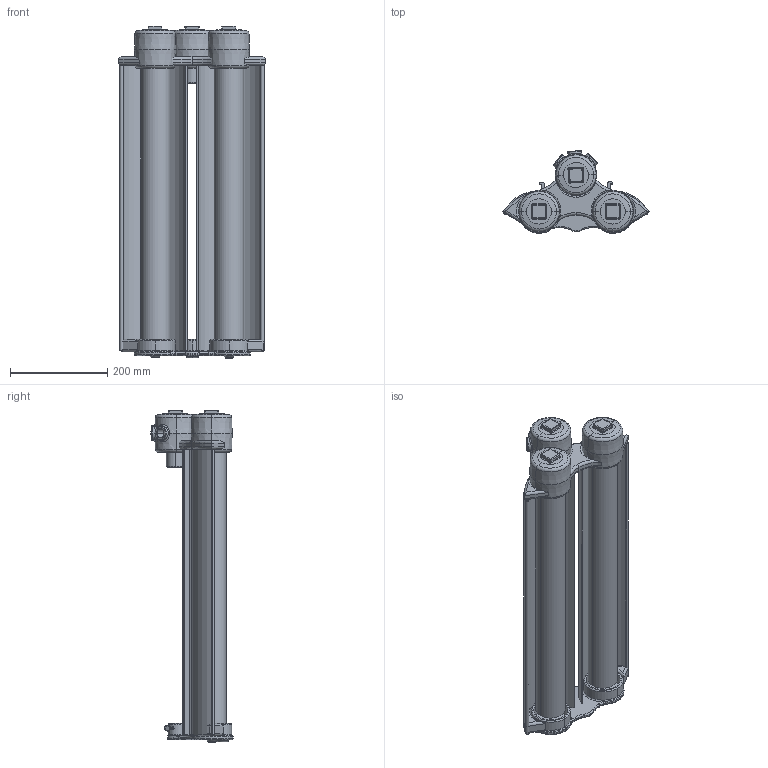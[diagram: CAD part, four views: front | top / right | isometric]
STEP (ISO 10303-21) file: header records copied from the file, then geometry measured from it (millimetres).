
FILE_DESCRIPTION (( 'STEP AP214' ), '1' );
FILE_NAME ('EPL-24-2L PND.STEP', '2015-03-13T13:15:24', ( '' ), ( '' ), 'SwSTEP 2.0', 'SolidWorks 2015', '' );
FILE_SCHEMA (( 'AUTOMOTIVE_DESIGN' ));
Length unit declared in the file: inch
Products named in the file (1): EPL-24-2L PND
Bounding box: 301.4 x 168.88 x 683.46 mm (x, y, z)
Surface area: 909376.4 mm2 (no closed solid volume)
Topology: 0 solids, 16 shells, 405 faces, 934 edges, 543 vertices
Faces by surface type: cylinder 127, torus 107, plane 98, cone 40, bspline 17, sphere 16
Entity records: 20443 total; most frequent: CARTESIAN_POINT 6093, DIRECTION 2067, ORIENTED_EDGE 1780, EDGE_CURVE 918, AXIS2_PLACEMENT_3D 874, VERTEX_POINT 543, CIRCLE 485, EDGE_LOOP 420
